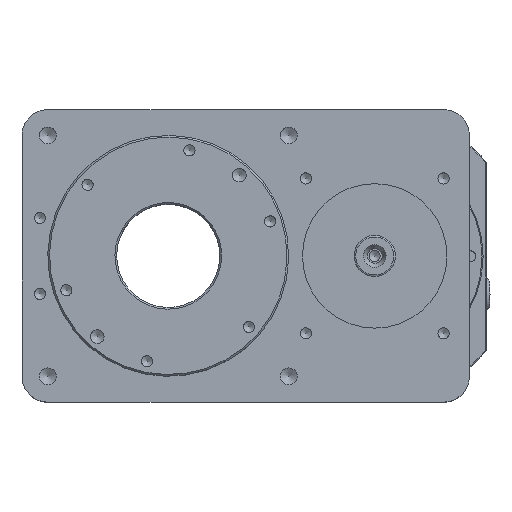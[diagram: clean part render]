
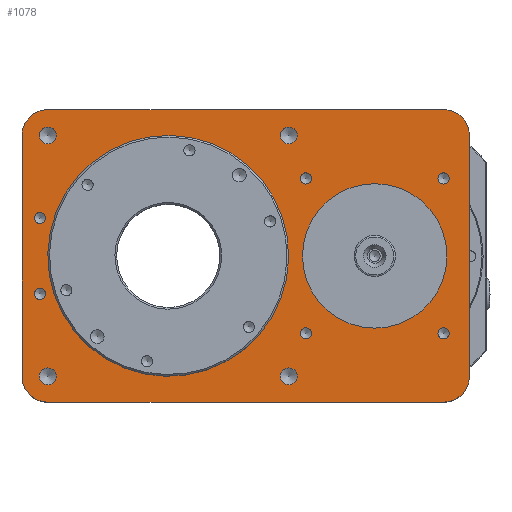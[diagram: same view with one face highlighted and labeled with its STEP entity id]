
A CAD part, top view. The second image highlights one B-rep face of the part: STEP entity #1078.
In plain terms, the highlighted planar face has unit normal (0, 0, 1).
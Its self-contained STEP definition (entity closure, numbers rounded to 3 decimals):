
#547=CARTESIAN_POINT('',(6.821,31.5,30.0));
#548=VERTEX_POINT('',#547);
#549=CARTESIAN_POINT('',(5.2,31.5,30.0));
#550=DIRECTION('',(0.0,0.0,-1.0));
#551=DIRECTION('',(1.0,0.0,0.0));
#552=AXIS2_PLACEMENT_3D('',#549,#550,#551);
#553=CIRCLE('',#552,1.621);
#554=EDGE_CURVE('',#548,#548,#553,.T.);
#584=CARTESIAN_POINT('',(6.821,53.5,30.0));
#585=VERTEX_POINT('',#584);
#586=CARTESIAN_POINT('',(5.2,53.5,30.0));
#587=DIRECTION('',(0.0,0.0,-1.0));
#588=DIRECTION('',(1.0,0.0,0.0));
#589=AXIS2_PLACEMENT_3D('',#586,#587,#588);
#590=CIRCLE('',#589,1.621);
#591=EDGE_CURVE('',#585,#585,#590,.T.);
#621=CARTESIAN_POINT('',(79.958,7.5,30.0));
#622=VERTEX_POINT('',#621);
#623=CARTESIAN_POINT('',(77.5,7.5,30.0));
#624=DIRECTION('',(0.0,0.0,-1.0));
#625=DIRECTION('',(1.0,0.0,0.0));
#626=AXIS2_PLACEMENT_3D('',#623,#624,#625);
#627=CIRCLE('',#626,2.459);
#628=EDGE_CURVE('',#622,#622,#627,.T.);
#658=CARTESIAN_POINT('',(9.959,7.5,30.0));
#659=VERTEX_POINT('',#658);
#660=CARTESIAN_POINT('',(7.5,7.5,30.0));
#661=DIRECTION('',(0.0,0.0,-1.0));
#662=DIRECTION('',(1.0,0.0,0.0));
#663=AXIS2_PLACEMENT_3D('',#660,#661,#662);
#664=CIRCLE('',#663,2.459);
#665=EDGE_CURVE('',#659,#659,#664,.T.);
#695=CARTESIAN_POINT('',(79.958,77.5,30.0));
#696=VERTEX_POINT('',#695);
#697=CARTESIAN_POINT('',(77.5,77.5,30.0));
#698=DIRECTION('',(0.0,0.0,-1.0));
#699=DIRECTION('',(1.0,0.0,0.0));
#700=AXIS2_PLACEMENT_3D('',#697,#698,#699);
#701=CIRCLE('',#700,2.459);
#702=EDGE_CURVE('',#696,#696,#701,.T.);
#732=CARTESIAN_POINT('',(9.958,77.5,30.0));
#733=VERTEX_POINT('',#732);
#734=CARTESIAN_POINT('',(7.5,77.5,30.0));
#735=DIRECTION('',(0.0,0.0,-1.0));
#736=DIRECTION('',(1.0,0.0,0.0));
#737=AXIS2_PLACEMENT_3D('',#734,#735,#736);
#738=CIRCLE('',#737,2.459);
#739=EDGE_CURVE('',#733,#733,#738,.T.);
#769=CARTESIAN_POINT('',(124.121,20.0,30.0));
#770=VERTEX_POINT('',#769);
#771=CARTESIAN_POINT('',(122.5,20.0,30.0));
#772=DIRECTION('',(0.0,0.0,-1.0));
#773=DIRECTION('',(1.0,0.0,0.0));
#774=AXIS2_PLACEMENT_3D('',#771,#772,#773);
#775=CIRCLE('',#774,1.621);
#776=EDGE_CURVE('',#770,#770,#775,.T.);
#806=CARTESIAN_POINT('',(84.121,20.,30.0));
#807=VERTEX_POINT('',#806);
#808=CARTESIAN_POINT('',(82.5,20.,30.0));
#809=DIRECTION('',(0.0,0.0,-1.0));
#810=DIRECTION('',(1.0,0.0,0.0));
#811=AXIS2_PLACEMENT_3D('',#808,#809,#810);
#812=CIRCLE('',#811,1.621);
#813=EDGE_CURVE('',#807,#807,#812,.T.);
#843=CARTESIAN_POINT('',(124.121,65.,30.0));
#844=VERTEX_POINT('',#843);
#845=CARTESIAN_POINT('',(122.5,65.,30.0));
#846=DIRECTION('',(0.0,0.0,-1.0));
#847=DIRECTION('',(1.0,0.0,0.0));
#848=AXIS2_PLACEMENT_3D('',#845,#846,#847);
#849=CIRCLE('',#848,1.621);
#850=EDGE_CURVE('',#844,#844,#849,.T.);
#880=CARTESIAN_POINT('',(84.121,65.,30.0));
#881=VERTEX_POINT('',#880);
#882=CARTESIAN_POINT('',(82.5,65.,30.0));
#883=DIRECTION('',(0.0,0.0,-1.0));
#884=DIRECTION('',(1.0,0.0,0.0));
#885=AXIS2_PLACEMENT_3D('',#882,#883,#884);
#886=CIRCLE('',#885,1.621);
#887=EDGE_CURVE('',#881,#881,#886,.T.);
#900=CARTESIAN_POINT('',(0.,77.5,30.0));
#901=VERTEX_POINT('',#900);
#902=CARTESIAN_POINT('',(7.5,85.0,30.0));
#903=VERTEX_POINT('',#902);
#904=CARTESIAN_POINT('',(7.5,77.5,30.0));
#905=DIRECTION('',(0.0,0.0,-1.0));
#906=DIRECTION('',(-0.707,0.707,0.0));
#907=AXIS2_PLACEMENT_3D('',#904,#905,#906);
#908=CIRCLE('',#907,7.5);
#909=EDGE_CURVE('',#901,#903,#908,.T.);
#943=CARTESIAN_POINT('',(122.5,85.,30.0));
#944=VERTEX_POINT('',#943);
#945=CARTESIAN_POINT('',(7.5,85.0,30.0));
#946=DIRECTION('',(1.0,0.0,0.0));
#947=VECTOR('',#946,115.0);
#948=LINE('',#945,#947);
#949=EDGE_CURVE('',#903,#944,#948,.T.);
#968=CARTESIAN_POINT('',(65.0,42.5,30.0));
#969=DIRECTION('',(0.0,0.0,1.0));
#970=DIRECTION('',(1.0,0.0,0.0));
#971=AXIS2_PLACEMENT_3D('',#968,#969,#970);
#972=PLANE('',#971);
#973=ORIENTED_EDGE('',*,*,#909,.F.);
#974=CARTESIAN_POINT('',(0.,7.5,30.0));
#975=VERTEX_POINT('',#974);
#976=CARTESIAN_POINT('',(0.,7.5,30.0));
#977=DIRECTION('',(0.0,1.0,0.0));
#978=VECTOR('',#977,70.0);
#979=LINE('',#976,#978);
#980=EDGE_CURVE('',#975,#901,#979,.T.);
#981=ORIENTED_EDGE('',*,*,#980,.F.);
#982=CARTESIAN_POINT('',(7.5,0.,30.0));
#983=VERTEX_POINT('',#982);
#984=CARTESIAN_POINT('',(7.5,7.5,30.0));
#985=DIRECTION('',(0.0,0.0,-1.0));
#986=DIRECTION('',(-0.707,-0.707,0.0));
#987=AXIS2_PLACEMENT_3D('',#984,#985,#986);
#988=CIRCLE('',#987,7.5);
#989=EDGE_CURVE('',#983,#975,#988,.T.);
#990=ORIENTED_EDGE('',*,*,#989,.F.);
#991=CARTESIAN_POINT('',(122.5,0.,30.0));
#992=VERTEX_POINT('',#991);
#993=CARTESIAN_POINT('',(122.5,0.,30.0));
#994=DIRECTION('',(-1.0,0.0,0.0));
#995=VECTOR('',#994,115.0);
#996=LINE('',#993,#995);
#997=EDGE_CURVE('',#992,#983,#996,.T.);
#998=ORIENTED_EDGE('',*,*,#997,.F.);
#999=CARTESIAN_POINT('',(130.0,7.5,30.0));
#1000=VERTEX_POINT('',#999);
#1001=CARTESIAN_POINT('',(122.5,7.5,30.0));
#1002=DIRECTION('',(0.0,0.0,-1.0));
#1003=DIRECTION('',(0.707,-0.707,0.0));
#1004=AXIS2_PLACEMENT_3D('',#1001,#1002,#1003);
#1005=CIRCLE('',#1004,7.5);
#1006=EDGE_CURVE('',#1000,#992,#1005,.T.);
#1007=ORIENTED_EDGE('',*,*,#1006,.F.);
#1008=CARTESIAN_POINT('',(130.,77.5,30.0));
#1009=VERTEX_POINT('',#1008);
#1010=CARTESIAN_POINT('',(130.,77.5,30.0));
#1011=DIRECTION('',(0.0,-1.0,0.0));
#1012=VECTOR('',#1011,70.);
#1013=LINE('',#1010,#1012);
#1014=EDGE_CURVE('',#1009,#1000,#1013,.T.);
#1015=ORIENTED_EDGE('',*,*,#1014,.F.);
#1016=CARTESIAN_POINT('',(122.5,77.5,30.0));
#1017=DIRECTION('',(0.0,0.0,-1.0));
#1018=DIRECTION('',(0.707,0.707,0.0));
#1019=AXIS2_PLACEMENT_3D('',#1016,#1017,#1018);
#1020=CIRCLE('',#1019,7.5);
#1021=EDGE_CURVE('',#944,#1009,#1020,.T.);
#1022=ORIENTED_EDGE('',*,*,#1021,.F.);
#1023=ORIENTED_EDGE('',*,*,#949,.F.);
#1024=EDGE_LOOP('',(#973,#981,#990,#998,#1007,#1015,#1022,#1023));
#1025=FACE_OUTER_BOUND('',#1024,.T.);
#1026=ORIENTED_EDGE('',*,*,#554,.T.);
#1027=EDGE_LOOP('',(#1026));
#1028=FACE_BOUND('',#1027,.T.);
#1029=ORIENTED_EDGE('',*,*,#591,.T.);
#1030=EDGE_LOOP('',(#1029));
#1031=FACE_BOUND('',#1030,.T.);
#1032=ORIENTED_EDGE('',*,*,#628,.T.);
#1033=EDGE_LOOP('',(#1032));
#1034=FACE_BOUND('',#1033,.T.);
#1035=ORIENTED_EDGE('',*,*,#665,.T.);
#1036=EDGE_LOOP('',(#1035));
#1037=FACE_BOUND('',#1036,.T.);
#1038=ORIENTED_EDGE('',*,*,#702,.T.);
#1039=EDGE_LOOP('',(#1038));
#1040=FACE_BOUND('',#1039,.T.);
#1041=ORIENTED_EDGE('',*,*,#739,.T.);
#1042=EDGE_LOOP('',(#1041));
#1043=FACE_BOUND('',#1042,.T.);
#1044=ORIENTED_EDGE('',*,*,#776,.T.);
#1045=EDGE_LOOP('',(#1044));
#1046=FACE_BOUND('',#1045,.T.);
#1047=ORIENTED_EDGE('',*,*,#813,.T.);
#1048=EDGE_LOOP('',(#1047));
#1049=FACE_BOUND('',#1048,.T.);
#1050=ORIENTED_EDGE('',*,*,#850,.T.);
#1051=EDGE_LOOP('',(#1050));
#1052=FACE_BOUND('',#1051,.T.);
#1053=ORIENTED_EDGE('',*,*,#887,.T.);
#1054=EDGE_LOOP('',(#1053));
#1055=FACE_BOUND('',#1054,.T.);
#1056=CARTESIAN_POINT('',(123.5,42.5,30.0));
#1057=VERTEX_POINT('',#1056);
#1058=CARTESIAN_POINT('',(102.5,42.5,30.0));
#1059=DIRECTION('',(0.0,0.0,-1.0));
#1060=DIRECTION('',(-1.0,0.0,0.0));
#1061=AXIS2_PLACEMENT_3D('',#1058,#1059,#1060);
#1062=CIRCLE('',#1061,21.0);
#1063=EDGE_CURVE('',#1057,#1057,#1062,.T.);
#1064=ORIENTED_EDGE('',*,*,#1063,.T.);
#1065=EDGE_LOOP('',(#1064));
#1066=FACE_BOUND('',#1065,.T.);
#1067=CARTESIAN_POINT('',(72.5,42.5,30.0));
#1068=VERTEX_POINT('',#1067);
#1069=CARTESIAN_POINT('',(42.5,42.5,30.0));
#1070=DIRECTION('',(0.0,0.0,-1.0));
#1071=DIRECTION('',(-1.0,0.0,0.0));
#1072=AXIS2_PLACEMENT_3D('',#1069,#1070,#1071);
#1073=CIRCLE('',#1072,30.0);
#1074=EDGE_CURVE('',#1068,#1068,#1073,.T.);
#1075=ORIENTED_EDGE('',*,*,#1074,.T.);
#1076=EDGE_LOOP('',(#1075));
#1077=FACE_BOUND('',#1076,.T.);
#1078=ADVANCED_FACE('',(#1025,#1028,#1031,#1034,#1037,#1040,#1043,#1046,#1049,#1052,#1055,#1066,#1077),#972,.T.);
